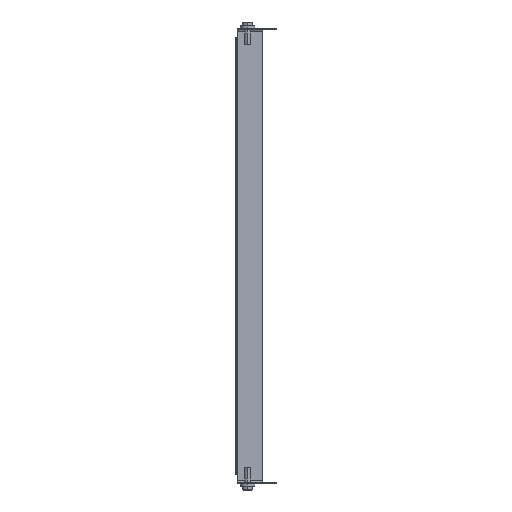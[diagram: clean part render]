
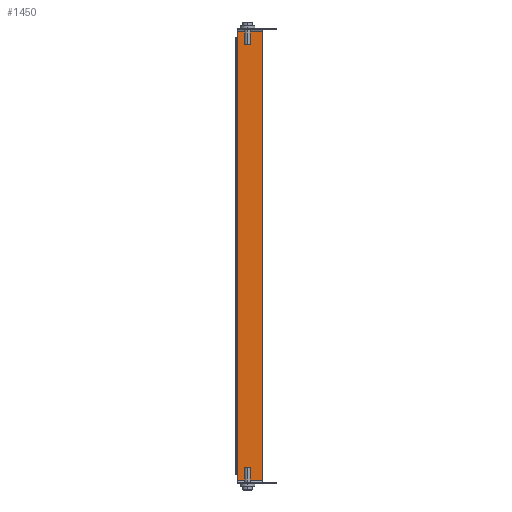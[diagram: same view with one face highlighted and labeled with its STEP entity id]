
A CAD part, left-side view. The second image highlights one B-rep face of the part: STEP entity #1450.
In plain terms, the highlighted planar face has unit normal (-1, 0, 0) as drawn and (0, 0, 1) by its records, which use the part's own axes.
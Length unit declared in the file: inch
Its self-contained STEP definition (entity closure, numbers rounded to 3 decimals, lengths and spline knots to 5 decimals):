
#1=DIRECTION('',(1.,0.,0.));
#2=VECTOR('',#1,18.09);
#3=CARTESIAN_POINT('',(-9.045,0.8125,0.));
#4=LINE('',#3,#2);
#9=DIRECTION('',(1.,0.,0.));
#10=VECTOR('',#9,18.619);
#11=CARTESIAN_POINT('',(-9.3095,-0.22248,0.));
#12=LINE('',#11,#10);
#739=DIRECTION('',(0.,-1.,0.));
#740=VECTOR('',#739,1.03498);
#741=CARTESIAN_POINT('',(9.3095,0.8125,0.));
#742=LINE('',#741,#740);
#761=DIRECTION('',(1.,0.,0.));
#762=VECTOR('',#761,0.2645);
#763=CARTESIAN_POINT('',(9.045,0.8125,0.));
#764=LINE('',#763,#762);
#865=DIRECTION('',(1.,0.,0.));
#866=VECTOR('',#865,0.2645);
#867=CARTESIAN_POINT('',(-9.3095,0.8125,0.));
#868=LINE('',#867,#866);
#887=DIRECTION('',(0.,1.,0.));
#888=VECTOR('',#887,1.03498);
#889=CARTESIAN_POINT('',(-9.3095,-0.22248,0.));
#890=LINE('',#889,#888);
#1107=CARTESIAN_POINT('',(9.3095,0.8125,0.));
#1108=CARTESIAN_POINT('',(9.3095,-0.22248,0.));
#1109=VERTEX_POINT('',#1107);
#1110=VERTEX_POINT('',#1108);
#1209=CARTESIAN_POINT('',(9.045,0.8125,0.));
#1211=VERTEX_POINT('',#1209);
#1218=CARTESIAN_POINT('',(-9.3095,0.8125,0.));
#1219=VERTEX_POINT('',#1218);
#1282=CARTESIAN_POINT('',(-9.045,0.8125,0.));
#1283=VERTEX_POINT('',#1282);
#1370=CARTESIAN_POINT('',(-9.3095,-0.22248,0.));
#1371=VERTEX_POINT('',#1370);
#1432=CARTESIAN_POINT('',(0.,0.,0.));
#1433=DIRECTION('',(0.,0.,1.));
#1434=DIRECTION('',(1.,0.,0.));
#1435=AXIS2_PLACEMENT_3D('',#1432,#1433,#1434);
#1436=PLANE('',#1435);
#1438=ORIENTED_EDGE('',*,*,#1437,.F.);
#1440=ORIENTED_EDGE('',*,*,#1439,.T.);
#1442=ORIENTED_EDGE('',*,*,#1441,.T.);
#1443=ORIENTED_EDGE('',*,*,#1421,.T.);
#1445=ORIENTED_EDGE('',*,*,#1444,.T.);
#1447=ORIENTED_EDGE('',*,*,#1446,.T.);
#1448=EDGE_LOOP('',(#1438,#1440,#1442,#1443,#1445,#1447));
#1449=FACE_OUTER_BOUND('',#1448,.F.);
#1421=EDGE_CURVE('',#1283,#1211,#4,.T.);
#1437=EDGE_CURVE('',#1371,#1110,#12,.T.);
#1439=EDGE_CURVE('',#1371,#1219,#890,.T.);
#1441=EDGE_CURVE('',#1219,#1283,#868,.T.);
#1444=EDGE_CURVE('',#1211,#1109,#764,.T.);
#1446=EDGE_CURVE('',#1109,#1110,#742,.T.);
#1450=ADVANCED_FACE('',(#1449),#1436,.T.);
